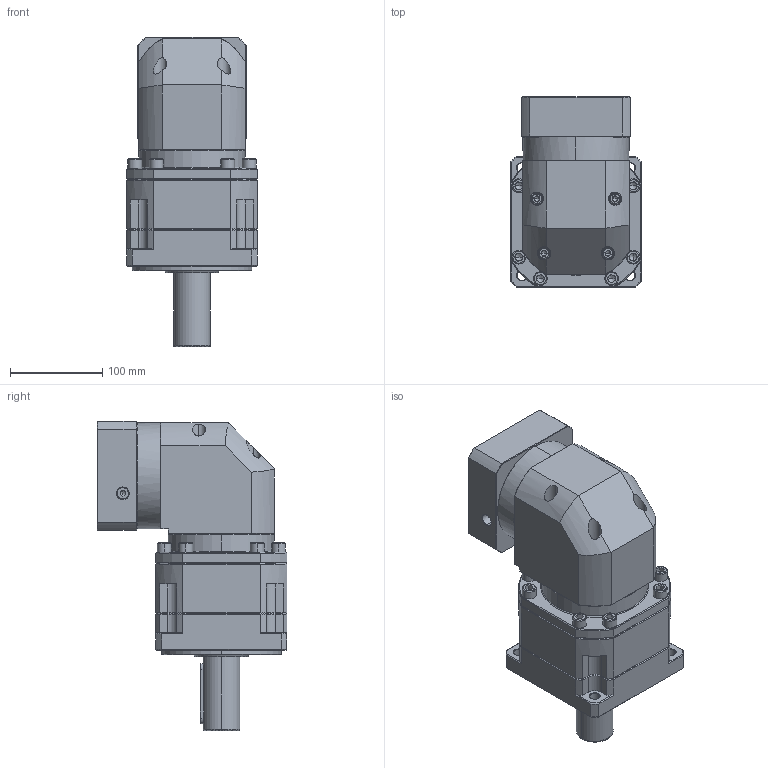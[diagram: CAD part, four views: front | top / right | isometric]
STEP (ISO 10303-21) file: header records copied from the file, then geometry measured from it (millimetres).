
FILE_DESCRIPTION (( 'STEP AP214' ), '1' );
FILE_NAME ('ZBR142A-D40-L2-P2-22-110-130-M8.step', '2023-09-02T08:08:58', ( '' ), ( '' ), 'SwSTEP 2.0', 'SolidWorks 2016', '' );
FILE_SCHEMA (( 'AUTOMOTIVE_DESIGN' ));
Length unit declared in the file: millimetre
Products named in the file (1): ZBR142A-D40-L2-P2-22-110-130-M8
Bounding box: 142 x 205.9 x 335.2 mm (x, y, z)
Volume: 4369845.4 mm3; surface area: 317287.9 mm2
Topology: 6 solids, 6 shells, 2590 faces, 6725 edges, 4261 vertices
Faces by surface type: plane 1232, cylinder 502, bspline 411, cone 399, torus 46
Entity records: 136962 total; most frequent: CARTESIAN_POINT 48561, ORIENTED_EDGE 13342, DIRECTION 10912, EDGE_CURVE 6671, VECTOR 4274, LINE 4274, VERTEX_POINT 4261, AXIS2_PLACEMENT_3D 3319
